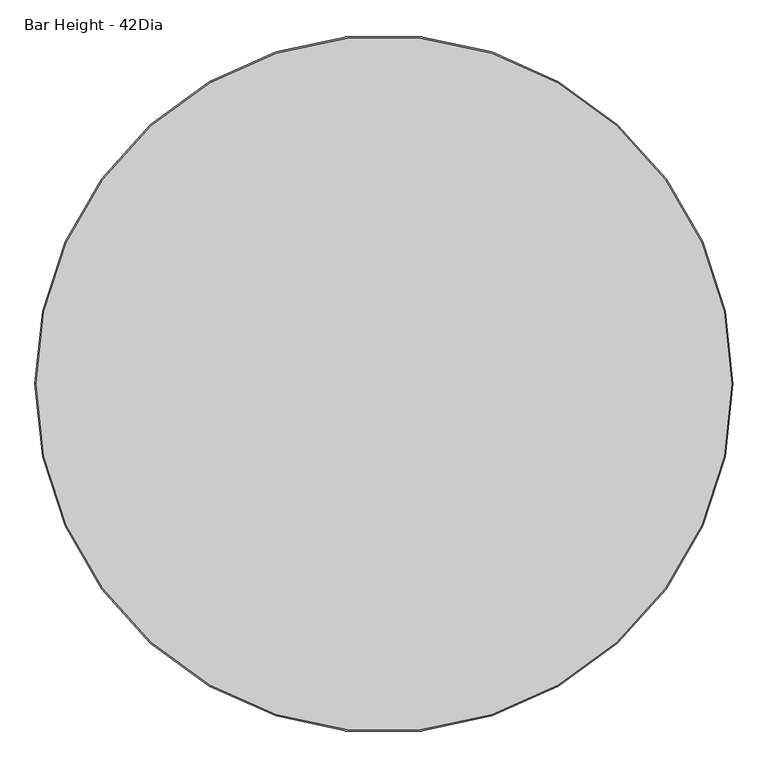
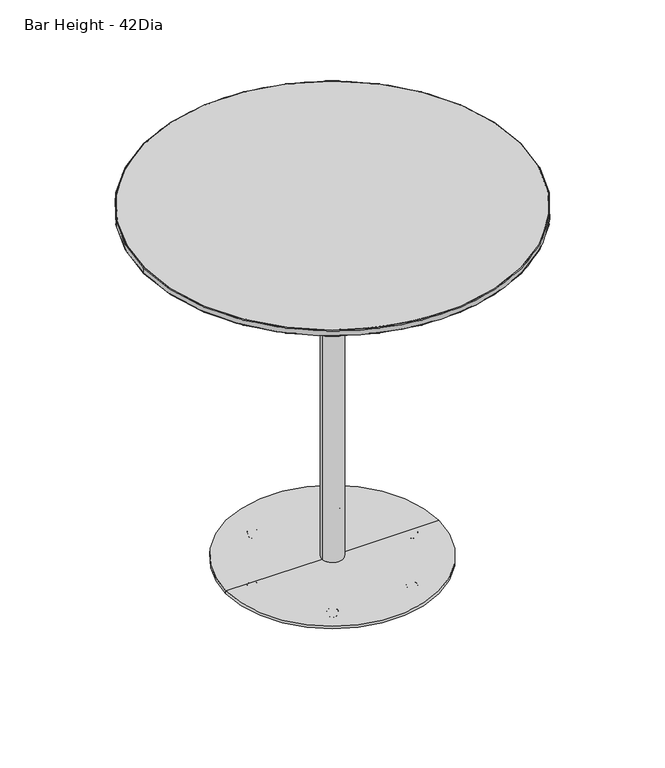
"""IFC4 building model written with IfcOpenShell, lengths in millimetres: furniture geometry, Coalesse_AM_Table_Occasional_Montara650Table_CafeHeight_Round : Bar Height - 42Dia."""

from ifc_helpers import new_model, si_unit, point, frame, origin, origin_with_axes, origin_2d, place, context, project, spatial, polyline, circle_curve, ellipse_curve, trimmed, segment, composite_curve, outline, extrude, source, transform, mapped, element, save
from ifc_brep_helpers import plane_surface, cylinder_surface, revolved_surface, advanced_brep


def bar_height_42dia_b9ada302(model_context):
    return source(origin(), model_context, "Body", "SolidModel", [
        advanced_brep(
        [(112.3723043, -195.0325848, 0.0), (119.7149467, -202.3752273, 0.0), (105.0296619, -187.6899424, 0.0), (120.2614489, -202.9217294, 0.5718943), (104.4831597, -187.1434403, 0.5718943), (122.560548, -205.2208285, 11.2068005), (102.1840606, -184.8443412, 11.2068005), (122.1455272, -204.8058077, 11.9999882), (102.5990814, -185.259362, 11.9999882), (112.3723043, -195.0325848, 11.9999882)],
        [
            (0, 1),
            (1, 2, circle_curve(frame((112.3723043, -195.0325848, 0.0), z_axis=(0.0, 0.0, -1.0), x_axis=(0.7071067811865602, -0.7071067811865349, 0.0)), 10.3840645)),
            (2, 0),
            (2, 1, circle_curve(frame((112.3723043, -195.0325848, 0.0), z_axis=(0.0, 0.0, -1.0), x_axis=(0.7071067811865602, -0.7071067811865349, 0.0)), 10.3840645)),
            (1, 3, circle_curve(frame((119.7149467, -202.3752273, 0.8081846), z_axis=(-0.7071067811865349, -0.7071067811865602, 0.0), x_axis=(0.7071067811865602, -0.7071067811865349, 0.0)), 0.8081846)),
            (3, 4, circle_curve(frame((112.3723043, -195.0325848, 0.5718943), z_axis=(0.0, 0.0, -1.0), x_axis=(0.7071067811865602, -0.7071067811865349, 0.0)), 11.1569353)),
            (4, 2, circle_curve(frame((105.0296619, -187.6899424, 0.8081846), z_axis=(-0.7071067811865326, -0.7071067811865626, 0.0), x_axis=(-0.7071067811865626, 0.7071067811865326, 0.0)), 0.8081846)),
            (4, 3, circle_curve(frame((112.3723043, -195.0325848, 0.5718943), z_axis=(0.0, 0.0, -1.0), x_axis=(0.7071067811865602, -0.7071067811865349, 0.0)), 11.1569353)),
            (3, 5),
            (5, 6, circle_curve(frame((112.3723043, -195.0325848, 11.2068005), z_axis=(0.0, 0.0, -1.0), x_axis=(0.7071067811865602, -0.7071067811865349, 0.0)), 14.4083524)),
            (6, 4),
            (6, 5, circle_curve(frame((112.3723043, -195.0325848, 11.2068005), z_axis=(0.0, 0.0, -1.0), x_axis=(0.7071067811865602, -0.7071067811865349, 0.0)), 14.4083524)),
            (5, 7, circle_curve(frame((122.1455272, -204.8058077, 11.3862424), z_axis=(-0.7071067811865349, -0.7071067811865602, 0.0), x_axis=(0.7071067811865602, -0.7071067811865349, 0.0)), 0.6137458)),
            (7, 8, circle_curve(frame((112.3723043, -195.0325848, 11.9999882), z_axis=(0.0, 0.0, -1.0), x_axis=(0.7071067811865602, -0.7071067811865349, 0.0)), 13.8214243)),
            (8, 6, circle_curve(frame((102.5990814, -185.259362, 11.3862424), z_axis=(-0.7071067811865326, -0.7071067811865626, 0.0), x_axis=(-0.7071067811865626, 0.7071067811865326, 0.0)), 0.6137458)),
            (8, 7, circle_curve(frame((112.3723043, -195.0325848, 11.9999882), z_axis=(0.0, 0.0, -1.0), x_axis=(0.7071067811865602, -0.7071067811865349, 0.0)), 13.8214243)),
            (7, 9),
            (9, 8),
        ],
        [
            plane_surface(frame((112.3723043, -195.0325848, 0.0), z_axis=(0.0, 0.0, -1.0000000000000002), x_axis=(0.7071067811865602, -0.7071067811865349, 0.0))),
            revolved_surface(trimmed(ellipse_curve(frame((119.7149467, -202.3752273, 0.8081846), z_axis=(0.7071067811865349, 0.7071067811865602, 0.0), x_axis=(0.7071067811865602, -0.7071067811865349, 0.0)), 0.8081846, 0.8081846), [point((120.2614489, -202.9217294, 0.5718943))], [point((119.7149467, -202.3752273, 0.0))], True, "CARTESIAN"), (112.3723043, -195.0325848, 12.2086845), (0.0, 0.0, -1.0)),
            revolved_surface(polyline([(122.560548, -205.2208285, 11.2068005), (120.2614489, -202.9217294, 0.5718943)]), (112.3723043, -195.0325848, 12.2086845), (0.0, 0.0, -1.0)),
            revolved_surface(trimmed(ellipse_curve(frame((122.1455272, -204.8058077, 11.3862424), z_axis=(0.7071067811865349, 0.7071067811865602, 0.0), x_axis=(0.7071067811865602, -0.7071067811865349, 0.0)), 0.6137458, 0.6137458), [point((122.1455272, -204.8058077, 11.9999882))], [point((122.560548, -205.2208285, 11.2068005))], True, "CARTESIAN"), (112.3723043, -195.0325848, 12.2086845), (0.0, 0.0, -1.0)),
            plane_surface(frame((112.3723043, -195.0325848, 11.9999882), z_axis=(0.0, 0.0, 1.0000000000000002), x_axis=(0.7071067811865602, -0.7071067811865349, 0.0))),
        ],
        [
            (0, [[1, 2, 3]]),
            (0, [[-3, 4, -1]]),
            (1, [[-2, 5, 6, 7]]),
            (1, [[-4, -7, 8, -5]]),
            (2, [[-6, 9, 10, 11]]),
            (2, [[-8, -11, 12, -9]]),
            (3, [[-10, 13, 14, 15]]),
            (3, [[-12, -15, 16, -13]]),
            (4, [[-14, 17, 18]]),
            (4, [[-16, -18, -17]]),
        ],
    ),
        advanced_brep(
        [(-104.9597041, -187.5851027, 0.0), (-119.6449889, -202.2703876, 0.0), (-112.3023465, -194.9277451, 0.0), (-104.4132019, -187.0386006, 0.5718943), (-120.1914911, -202.8168897, 0.5718943), (-102.1141028, -184.7395015, 11.2068005), (-122.4905902, -205.1159888, 11.2068005), (-102.5291236, -185.1545223, 11.9999882), (-122.0755694, -204.700968, 11.9999882), (-112.3023465, -194.9277451, 11.9999882)],
        [
            (0, 1, circle_curve(frame((-112.3023465, -194.9277451, 0.0), z_axis=(0.0, 0.0, -1.0), x_axis=(-0.7071067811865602, -0.7071067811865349, 0.0)), 10.3840645)),
            (1, 2),
            (2, 0),
            (1, 0, circle_curve(frame((-112.3023465, -194.9277451, 0.0), z_axis=(0.0, 0.0, -1.0), x_axis=(-0.7071067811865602, -0.7071067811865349, 0.0)), 10.3840645)),
            (3, 4, circle_curve(frame((-112.3023465, -194.9277451, 0.5718943), z_axis=(0.0, 0.0, -1.0), x_axis=(-0.7071067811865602, -0.7071067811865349, 0.0)), 11.1569353)),
            (4, 1, circle_curve(frame((-119.6449889, -202.2703876, 0.8081846), z_axis=(0.7071067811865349, -0.7071067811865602, 0.0), x_axis=(-0.7071067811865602, -0.7071067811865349, 0.0)), 0.8081846)),
            (0, 3, circle_curve(frame((-104.9597041, -187.5851027, 0.8081846), z_axis=(0.7071067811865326, -0.7071067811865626, 0.0), x_axis=(0.7071067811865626, 0.7071067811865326, 0.0)), 0.8081846)),
            (4, 3, circle_curve(frame((-112.3023465, -194.9277451, 0.5718943), z_axis=(0.0, 0.0, -1.0), x_axis=(-0.7071067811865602, -0.7071067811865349, 0.0)), 11.1569353)),
            (5, 6, circle_curve(frame((-112.3023465, -194.9277451, 11.2068005), z_axis=(0.0, 0.0, -1.0), x_axis=(-0.7071067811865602, -0.7071067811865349, 0.0)), 14.4083524)),
            (6, 4),
            (3, 5),
            (6, 5, circle_curve(frame((-112.3023465, -194.9277451, 11.2068005), z_axis=(0.0, 0.0, -1.0), x_axis=(-0.7071067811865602, -0.7071067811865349, 0.0)), 14.4083524)),
            (7, 8, circle_curve(frame((-112.3023465, -194.9277451, 11.9999882), z_axis=(0.0, 0.0, -1.0), x_axis=(-0.7071067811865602, -0.7071067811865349, 0.0)), 13.8214243)),
            (8, 6, circle_curve(frame((-122.0755694, -204.700968, 11.3862424), z_axis=(0.7071067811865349, -0.7071067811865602, 0.0), x_axis=(-0.7071067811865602, -0.7071067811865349, 0.0)), 0.6137458)),
            (5, 7, circle_curve(frame((-102.5291236, -185.1545223, 11.3862424), z_axis=(0.7071067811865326, -0.7071067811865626, 0.0), x_axis=(0.7071067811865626, 0.7071067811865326, 0.0)), 0.6137458)),
            (8, 7, circle_curve(frame((-112.3023465, -194.9277451, 11.9999882), z_axis=(0.0, 0.0, -1.0), x_axis=(-0.7071067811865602, -0.7071067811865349, 0.0)), 13.8214243)),
            (9, 8),
            (7, 9),
        ],
        [
            plane_surface(frame((-112.3023465, -194.9277451, 0.0), z_axis=(0.0, 0.0, -1.0000000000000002), x_axis=(-0.7071067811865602, -0.7071067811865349, 0.0))),
            revolved_surface(trimmed(ellipse_curve(frame((-119.6449889, -202.2703876, 0.8081846), z_axis=(-0.7071067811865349, 0.7071067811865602, 0.0), x_axis=(-0.7071067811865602, -0.7071067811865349, 0.0)), 0.8081846, 0.8081846), [point((-119.6449889, -202.2703876, 0.0))], [point((-120.1914911, -202.8168897, 0.5718943))], True, "CARTESIAN"), (-112.3023465, -194.9277451, 12.2086845), (0.0, 0.0, 1.0)),
            revolved_surface(polyline([(-120.1914911, -202.8168897, 0.5718943), (-122.4905902, -205.1159888, 11.2068005)]), (-112.3023465, -194.9277451, 12.2086845), (0.0, 0.0, 1.0)),
            revolved_surface(trimmed(ellipse_curve(frame((-122.0755694, -204.700968, 11.3862424), z_axis=(-0.7071067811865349, 0.7071067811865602, 0.0), x_axis=(-0.7071067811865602, -0.7071067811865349, 0.0)), 0.6137458, 0.6137458), [point((-122.4905902, -205.1159888, 11.2068005))], [point((-122.0755694, -204.700968, 11.9999882))], True, "CARTESIAN"), (-112.3023465, -194.9277451, 12.2086845), (0.0, 0.0, 1.0)),
            plane_surface(frame((-112.3023465, -194.9277451, 11.9999882), z_axis=(0.0, 0.0, 1.0000000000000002), x_axis=(-0.7071067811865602, -0.7071067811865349, 0.0))),
        ],
        [
            (0, [[1, 2, 3]]),
            (0, [[4, -3, -2]]),
            (1, [[5, 6, -1, 7]]),
            (1, [[8, -7, -4, -6]]),
            (2, [[9, 10, -5, 11]]),
            (2, [[12, -11, -8, -10]]),
            (3, [[13, 14, -9, 15]]),
            (3, [[16, -15, -12, -14]]),
            (4, [[17, -13, 18]]),
            (4, [[-18, -16, -17]]),
        ],
    ),
        advanced_brep(
        [(-112.055175, -184.4898776, 0.0), (-112.055175, -205.2580066, 0.0), (-112.055175, -194.8739421, 0.0), (-112.055175, -183.7170068, 0.5718943), (-112.055175, -206.0308773, 0.5718943), (-112.055175, -180.4655897, 11.2068005), (-112.055175, -209.2822944, 11.2068005), (-112.055175, -181.0525177, 11.9999882), (-112.055175, -208.6953664, 11.9999882), (-112.055175, -194.8739421, 11.9999882)],
        [
            (0, 1, circle_curve(frame((-112.055175, -194.8739421, 0.0), z_axis=(0.0, 0.0, -1.0), x_axis=(0.0, -1.0, 0.0)), 10.3840645)),
            (1, 2),
            (2, 0),
            (1, 0, circle_curve(frame((-112.055175, -194.8739421, 0.0), z_axis=(0.0, 0.0, -1.0), x_axis=(0.0, -1.0, 0.0)), 10.3840645)),
            (3, 4, circle_curve(frame((-112.055175, -194.8739421, 0.5718943), z_axis=(0.0, 0.0, -1.0), x_axis=(0.0, -1.0, 0.0)), 11.1569353)),
            (4, 1, circle_curve(frame((-112.055175, -205.2580066, 0.8081846), z_axis=(1.0, 0.0, 0.0), x_axis=(0.0, -1.0, 0.0)), 0.8081846)),
            (0, 3, circle_curve(frame((-112.055175, -184.4898776, 0.8081846), z_axis=(1.0, 0.0, 0.0), x_axis=(0.0, 1.0, 0.0)), 0.8081846)),
            (4, 3, circle_curve(frame((-112.055175, -194.8739421, 0.5718943), z_axis=(0.0, 0.0, -1.0), x_axis=(0.0, -1.0, 0.0)), 11.1569353)),
            (5, 6, circle_curve(frame((-112.055175, -194.8739421, 11.2068005), z_axis=(0.0, 0.0, -1.0), x_axis=(0.0, -1.0, 0.0)), 14.4083524)),
            (6, 4),
            (3, 5),
            (6, 5, circle_curve(frame((-112.055175, -194.8739421, 11.2068005), z_axis=(0.0, 0.0, -1.0), x_axis=(0.0, -1.0, 0.0)), 14.4083524)),
            (7, 8, circle_curve(frame((-112.055175, -194.8739421, 11.9999882), z_axis=(0.0, 0.0, -1.0), x_axis=(0.0, -1.0, 0.0)), 13.8214243)),
            (8, 6, circle_curve(frame((-112.055175, -208.6953664, 11.3862424), z_axis=(1.0, 0.0, 0.0), x_axis=(0.0, -1.0, 0.0)), 0.6137458)),
            (5, 7, circle_curve(frame((-112.055175, -181.0525177, 11.3862424), z_axis=(1.0, 0.0, 0.0), x_axis=(0.0, 1.0, 0.0)), 0.6137458)),
            (8, 7, circle_curve(frame((-112.055175, -194.8739421, 11.9999882), z_axis=(0.0, 0.0, -1.0), x_axis=(0.0, -1.0, 0.0)), 13.8214243)),
            (9, 8),
            (7, 9),
        ],
        [
            plane_surface(frame((-112.055175, -194.8739421, 0.0), z_axis=(0.0, 0.0, -1.0), x_axis=(0.0, -1.0, 0.0))),
            revolved_surface(trimmed(ellipse_curve(frame((-112.055175, -205.2580066, 0.8081846), z_axis=(-1.0, 0.0, 0.0), x_axis=(0.0, -1.0, 0.0)), 0.8081846, 0.8081846), [point((-112.055175, -205.2580066, 0.0))], [point((-112.055175, -206.0308773, 0.5718943))], True, "CARTESIAN"), (-112.055175, -194.8739421, 12.2086845), (0.0, 0.0, 1.0)),
            revolved_surface(polyline([(-112.055175, -206.0308773, 0.5718943), (-112.055175, -209.2822944, 11.2068005)]), (-112.055175, -194.8739421, 12.2086845), (0.0, 0.0, 1.0)),
            revolved_surface(trimmed(ellipse_curve(frame((-112.055175, -208.6953664, 11.3862424), z_axis=(-1.0, 0.0, 0.0), x_axis=(0.0, -1.0, 0.0)), 0.6137458, 0.6137458), [point((-112.055175, -209.2822944, 11.2068005))], [point((-112.055175, -208.6953664, 11.9999882))], True, "CARTESIAN"), (-112.055175, -194.8739421, 12.2086845), (0.0, 0.0, 1.0)),
            plane_surface(frame((-112.055175, -194.8739421, 11.9999882), z_axis=(0.0, 0.0, 1.0), x_axis=(0.0, -1.0, 0.0))),
        ],
        [
            (0, [[1, 2, 3]]),
            (0, [[4, -3, -2]]),
            (1, [[5, 6, -1, 7]]),
            (1, [[8, -7, -4, -6]]),
            (2, [[9, 10, -5, 11]]),
            (2, [[12, -11, -8, -10]]),
            (3, [[13, 14, -9, 15]]),
            (3, [[16, -15, -12, -14]]),
            (4, [[17, -13, 18]]),
            (4, [[-18, -16, -17]]),
        ],
    ),
        advanced_brep(
        [(214.9060746, 0.0, 0.0), (235.6742036, 0.0, 0.0), (225.2901391, 0.0, 0.0), (214.1332039, 0.0, 0.5718943), (236.4470744, 0.0, 0.5718943), (210.8817867, 0.0, 11.2068005), (239.6984915, 0.0, 11.2068005), (211.4687148, 0.0, 11.9999882), (239.1115635, 0.0, 11.9999882), (225.2901391, 0.0, 11.9999882)],
        [
            (0, 1, circle_curve(frame((225.2901391, 0.0, 0.0), z_axis=(0.0, 0.0, -1.0), x_axis=(1.0, 0.0, 0.0)), 10.3840645)),
            (1, 2),
            (2, 0),
            (1, 0, circle_curve(frame((225.2901391, 0.0, 0.0), z_axis=(0.0, 0.0, -1.0), x_axis=(1.0, 0.0, 0.0)), 10.3840645)),
            (3, 4, circle_curve(frame((225.2901391, 0.0, 0.5718943), z_axis=(0.0, 0.0, -1.0), x_axis=(1.0, 0.0, 0.0)), 11.1569353)),
            (4, 1, circle_curve(frame((235.6742036, 0.0, 0.8081846), z_axis=(0.0, 1.0, 0.0), x_axis=(1.0, 0.0, 0.0)), 0.8081846)),
            (0, 3, circle_curve(frame((214.9060746, 0.0, 0.8081846), z_axis=(0.0, 1.0, 0.0), x_axis=(-1.0, 0.0, 0.0)), 0.8081846)),
            (4, 3, circle_curve(frame((225.2901391, 0.0, 0.5718943), z_axis=(0.0, 0.0, -1.0), x_axis=(1.0, 0.0, 0.0)), 11.1569353)),
            (5, 6, circle_curve(frame((225.2901391, 0.0, 11.2068005), z_axis=(0.0, 0.0, -1.0), x_axis=(1.0, 0.0, 0.0)), 14.4083524)),
            (6, 4),
            (3, 5),
            (6, 5, circle_curve(frame((225.2901391, 0.0, 11.2068005), z_axis=(0.0, 0.0, -1.0), x_axis=(1.0, 0.0, 0.0)), 14.4083524)),
            (7, 8, circle_curve(frame((225.2901391, 0.0, 11.9999882), z_axis=(0.0, 0.0, -1.0), x_axis=(1.0, 0.0, 0.0)), 13.8214243)),
            (8, 6, circle_curve(frame((239.1115635, 0.0, 11.3862424), z_axis=(0.0, 1.0, 0.0), x_axis=(1.0, 0.0, 0.0)), 0.6137458)),
            (5, 7, circle_curve(frame((211.4687148, 0.0, 11.3862424), z_axis=(0.0, 1.0, 0.0), x_axis=(-1.0, 0.0, 0.0)), 0.6137458)),
            (8, 7, circle_curve(frame((225.2901391, 0.0, 11.9999882), z_axis=(0.0, 0.0, -1.0), x_axis=(1.0, 0.0, 0.0)), 13.8214243)),
            (9, 8),
            (7, 9),
        ],
        [
            plane_surface(frame((225.2901391, 0.0, 0.0), z_axis=(0.0, 0.0, -1.0), x_axis=(1.0, 0.0, 0.0))),
            revolved_surface(trimmed(ellipse_curve(frame((235.6742036, 0.0, 0.8081846), z_axis=(0.0, -1.0, 0.0), x_axis=(1.0, 0.0, 0.0)), 0.8081846, 0.8081846), [point((235.6742036, 0.0, 0.0))], [point((236.4470744, 0.0, 0.5718943))], True, "CARTESIAN"), (225.2901391, 0.0, 12.2086845), (0.0, 0.0, 1.0)),
            revolved_surface(polyline([(236.4470744, 0.0, 0.5718943), (239.6984915, 0.0, 11.2068005)]), (225.2901391, 0.0, 12.2086845), (0.0, 0.0, 1.0)),
            revolved_surface(trimmed(ellipse_curve(frame((239.1115635, 0.0, 11.3862424), z_axis=(0.0, -1.0, 0.0), x_axis=(1.0, 0.0, 0.0)), 0.6137458, 0.6137458), [point((239.6984915, 0.0, 11.2068005))], [point((239.1115635, 0.0, 11.9999882))], True, "CARTESIAN"), (225.2901391, 0.0, 12.2086845), (0.0, 0.0, 1.0)),
            plane_surface(frame((225.2901391, 0.0, 11.9999882), z_axis=(0.0, 0.0, 1.0), x_axis=(1.0, 0.0, 0.0))),
        ],
        [
            (0, [[1, 2, 3]]),
            (0, [[4, -3, -2]]),
            (1, [[5, 6, -1, 7]]),
            (1, [[8, -7, -4, -6]]),
            (2, [[9, 10, -5, 11]]),
            (2, [[12, -11, -8, -10]]),
            (3, [[13, 14, -9, 15]]),
            (3, [[16, -15, -12, -14]]),
            (4, [[17, -13, 18]]),
            (4, [[-18, -16, -17]]),
        ],
    ),
        advanced_brep(
        [(102.9986415, 175.7657839, 0.0), (117.6839264, 190.4510688, 0.0), (110.341284, 183.1084263, 0.0), (102.4521394, 175.2192818, 0.5718943), (118.2304285, 190.9975709, 0.5718943), (100.1530403, 172.9201827, 11.2068005), (120.5295276, 193.29667, 11.2068005), (100.5680611, 173.3352035, 11.9999882), (120.1145068, 192.8816492, 11.9999882), (110.341284, 183.1084263, 11.9999882)],
        [
            (0, 1, circle_curve(frame((110.341284, 183.1084263, 0.0), z_axis=(0.0, 0.0, -1.0), x_axis=(0.7071067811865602, 0.7071067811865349, 0.0)), 10.3840645)),
            (1, 2),
            (2, 0),
            (1, 0, circle_curve(frame((110.341284, 183.1084263, 0.0), z_axis=(0.0, 0.0, -1.0), x_axis=(0.7071067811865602, 0.7071067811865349, 0.0)), 10.3840645)),
            (3, 4, circle_curve(frame((110.341284, 183.1084263, 0.5718943), z_axis=(0.0, 0.0, -1.0), x_axis=(0.7071067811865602, 0.7071067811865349, 0.0)), 11.1569353)),
            (4, 1, circle_curve(frame((117.6839264, 190.4510688, 0.8081846), z_axis=(-0.7071067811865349, 0.7071067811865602, 0.0), x_axis=(0.7071067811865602, 0.7071067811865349, 0.0)), 0.8081846)),
            (0, 3, circle_curve(frame((102.9986415, 175.7657839, 0.8081846), z_axis=(-0.7071067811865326, 0.7071067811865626, 0.0), x_axis=(-0.7071067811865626, -0.7071067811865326, 0.0)), 0.8081846)),
            (4, 3, circle_curve(frame((110.341284, 183.1084263, 0.5718943), z_axis=(0.0, 0.0, -1.0), x_axis=(0.7071067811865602, 0.7071067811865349, 0.0)), 11.1569353)),
            (5, 6, circle_curve(frame((110.341284, 183.1084263, 11.2068005), z_axis=(0.0, 0.0, -1.0), x_axis=(0.7071067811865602, 0.7071067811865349, 0.0)), 14.4083524)),
            (6, 4),
            (3, 5),
            (6, 5, circle_curve(frame((110.341284, 183.1084263, 11.2068005), z_axis=(0.0, 0.0, -1.0), x_axis=(0.7071067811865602, 0.7071067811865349, 0.0)), 14.4083524)),
            (7, 8, circle_curve(frame((110.341284, 183.1084263, 11.9999882), z_axis=(0.0, 0.0, -1.0), x_axis=(0.7071067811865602, 0.7071067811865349, 0.0)), 13.8214243)),
            (8, 6, circle_curve(frame((120.1145068, 192.8816492, 11.3862424), z_axis=(-0.7071067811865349, 0.7071067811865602, 0.0), x_axis=(0.7071067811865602, 0.7071067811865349, 0.0)), 0.6137458)),
            (5, 7, circle_curve(frame((100.5680611, 173.3352035, 11.3862424), z_axis=(-0.7071067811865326, 0.7071067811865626, 0.0), x_axis=(-0.7071067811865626, -0.7071067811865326, 0.0)), 0.6137458)),
            (8, 7, circle_curve(frame((110.341284, 183.1084263, 11.9999882), z_axis=(0.0, 0.0, -1.0), x_axis=(0.7071067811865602, 0.7071067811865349, 0.0)), 13.8214243)),
            (9, 8),
            (7, 9),
        ],
        [
            plane_surface(frame((110.341284, 183.1084263, 0.0), z_axis=(0.0, 0.0, -1.0000000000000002), x_axis=(0.7071067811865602, 0.7071067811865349, 0.0))),
            revolved_surface(trimmed(ellipse_curve(frame((117.6839264, 190.4510688, 0.8081846), z_axis=(0.7071067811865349, -0.7071067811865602, 0.0), x_axis=(0.7071067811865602, 0.7071067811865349, 0.0)), 0.8081846, 0.8081846), [point((117.6839264, 190.4510688, 0.0))], [point((118.2304285, 190.9975709, 0.5718943))], True, "CARTESIAN"), (110.341284, 183.1084263, 12.2086845), (0.0, 0.0, 1.0)),
            revolved_surface(polyline([(118.2304285, 190.9975709, 0.5718943), (120.5295276, 193.29667, 11.2068005)]), (110.341284, 183.1084263, 12.2086845), (0.0, 0.0, 1.0)),
            revolved_surface(trimmed(ellipse_curve(frame((120.1145068, 192.8816492, 11.3862424), z_axis=(0.7071067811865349, -0.7071067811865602, 0.0), x_axis=(0.7071067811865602, 0.7071067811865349, 0.0)), 0.6137458, 0.6137458), [point((120.5295276, 193.29667, 11.2068005))], [point((120.1145068, 192.8816492, 11.9999882))], True, "CARTESIAN"), (110.341284, 183.1084263, 12.2086845), (0.0, 0.0, 1.0)),
            plane_surface(frame((110.341284, 183.1084263, 11.9999882), z_axis=(0.0, 0.0, 1.0000000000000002), x_axis=(0.7071067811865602, 0.7071067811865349, 0.0))),
        ],
        [
            (0, [[1, 2, 3]]),
            (0, [[4, -3, -2]]),
            (1, [[5, 6, -1, 7]]),
            (1, [[8, -7, -4, -6]]),
            (2, [[9, 10, -5, 11]]),
            (2, [[12, -11, -8, -10]]),
            (3, [[13, 14, -9, 15]]),
            (3, [[16, -15, -12, -14]]),
            (4, [[17, -13, 18]]),
            (4, [[-18, -16, -17]]),
        ],
    ),
        advanced_brep(
        [(-112.5027991, 194.9473484, 0.0), (-119.8454415, 202.2899909, 0.0), (-105.1601566, 187.604706, 0.0), (-120.3919436, 202.836493, 0.5718943), (-104.6136545, 187.0582039, 0.5718943), (-122.6910427, 205.1355921, 11.2068005), (-102.3145554, 184.7591048, 11.2068005), (-122.2760219, 204.7205713, 11.9999882), (-102.7295762, 185.1741256, 11.9999882), (-112.5027991, 194.9473484, 11.9999882)],
        [
            (0, 1),
            (1, 2, circle_curve(frame((-112.5027991, 194.9473484, 0.0), z_axis=(0.0, 0.0, -1.0), x_axis=(-0.7071067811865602, 0.7071067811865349, 0.0)), 10.3840645)),
            (2, 0),
            (2, 1, circle_curve(frame((-112.5027991, 194.9473484, 0.0), z_axis=(0.0, 0.0, -1.0), x_axis=(-0.7071067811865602, 0.7071067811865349, 0.0)), 10.3840645)),
            (1, 3, circle_curve(frame((-119.8454415, 202.2899909, 0.8081846), z_axis=(0.7071067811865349, 0.7071067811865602, 0.0), x_axis=(-0.7071067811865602, 0.7071067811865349, 0.0)), 0.8081846)),
            (3, 4, circle_curve(frame((-112.5027991, 194.9473484, 0.5718943), z_axis=(0.0, 0.0, -1.0), x_axis=(-0.7071067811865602, 0.7071067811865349, 0.0)), 11.1569353)),
            (4, 2, circle_curve(frame((-105.1601566, 187.604706, 0.8081846), z_axis=(0.7071067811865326, 0.7071067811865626, 0.0), x_axis=(0.7071067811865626, -0.7071067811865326, 0.0)), 0.8081846)),
            (4, 3, circle_curve(frame((-112.5027991, 194.9473484, 0.5718943), z_axis=(0.0, 0.0, -1.0), x_axis=(-0.7071067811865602, 0.7071067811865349, 0.0)), 11.1569353)),
            (3, 5),
            (5, 6, circle_curve(frame((-112.5027991, 194.9473484, 11.2068005), z_axis=(0.0, 0.0, -1.0), x_axis=(-0.7071067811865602, 0.7071067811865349, 0.0)), 14.4083524)),
            (6, 4),
            (6, 5, circle_curve(frame((-112.5027991, 194.9473484, 11.2068005), z_axis=(0.0, 0.0, -1.0), x_axis=(-0.7071067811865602, 0.7071067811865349, 0.0)), 14.4083524)),
            (5, 7, circle_curve(frame((-122.2760219, 204.7205713, 11.3862424), z_axis=(0.7071067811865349, 0.7071067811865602, 0.0), x_axis=(-0.7071067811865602, 0.7071067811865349, 0.0)), 0.6137458)),
            (7, 8, circle_curve(frame((-112.5027991, 194.9473484, 11.9999882), z_axis=(0.0, 0.0, -1.0), x_axis=(-0.7071067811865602, 0.7071067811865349, 0.0)), 13.8214243)),
            (8, 6, circle_curve(frame((-102.7295762, 185.1741256, 11.3862424), z_axis=(0.7071067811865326, 0.7071067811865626, 0.0), x_axis=(0.7071067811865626, -0.7071067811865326, 0.0)), 0.6137458)),
            (8, 7, circle_curve(frame((-112.5027991, 194.9473484, 11.9999882), z_axis=(0.0, 0.0, -1.0), x_axis=(-0.7071067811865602, 0.7071067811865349, 0.0)), 13.8214243)),
            (7, 9),
            (9, 8),
        ],
        [
            plane_surface(frame((-112.5027991, 194.9473484, 0.0), z_axis=(0.0, 0.0, -1.0000000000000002), x_axis=(-0.7071067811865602, 0.7071067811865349, 0.0))),
            revolved_surface(trimmed(ellipse_curve(frame((-119.8454415, 202.2899909, 0.8081846), z_axis=(-0.7071067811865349, -0.7071067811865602, 0.0), x_axis=(-0.7071067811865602, 0.7071067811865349, 0.0)), 0.8081846, 0.8081846), [point((-120.3919436, 202.836493, 0.5718943))], [point((-119.8454415, 202.2899909, 0.0))], True, "CARTESIAN"), (-112.5027991, 194.9473484, 12.2086845), (0.0, 0.0, -1.0)),
            revolved_surface(polyline([(-122.6910427, 205.1355921, 11.2068005), (-120.3919436, 202.836493, 0.5718943)]), (-112.5027991, 194.9473484, 12.2086845), (0.0, 0.0, -1.0)),
            revolved_surface(trimmed(ellipse_curve(frame((-122.2760219, 204.7205713, 11.3862424), z_axis=(-0.7071067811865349, -0.7071067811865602, 0.0), x_axis=(-0.7071067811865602, 0.7071067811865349, 0.0)), 0.6137458, 0.6137458), [point((-122.2760219, 204.7205713, 11.9999882))], [point((-122.6910427, 205.1355921, 11.2068005))], True, "CARTESIAN"), (-112.5027991, 194.9473484, 12.2086845), (0.0, 0.0, -1.0)),
            plane_surface(frame((-112.5027991, 194.9473484, 11.9999882), z_axis=(0.0, 0.0, 1.0000000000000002), x_axis=(-0.7071067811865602, 0.7071067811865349, 0.0))),
        ],
        [
            (0, [[1, 2, 3]]),
            (0, [[-3, 4, -1]]),
            (1, [[-2, 5, 6, 7]]),
            (1, [[-4, -7, 8, -5]]),
            (2, [[-6, 9, 10, 11]]),
            (2, [[-8, -11, 12, -9]]),
            (3, [[-10, 13, 14, 15]]),
            (3, [[-12, -15, 16, -13]]),
            (4, [[-14, 17, 18]]),
            (4, [[-16, -18, -17]]),
        ],
    ),
        advanced_brep(
        [(-225.0355893, 0.0, 0.0), (-235.4196538, 0.0, 0.0), (-214.6515248, 0.0, 0.0), (-236.1925246, 0.0, 0.5718943), (-213.8786541, 0.0, 0.5718943), (-239.4439417, 0.0, 11.2068005), (-210.6272369, 0.0, 11.2068005), (-238.8570136, 0.0, 11.9999882), (-211.214165, 0.0, 11.9999882), (-225.0355893, 0.0, 11.9999882)],
        [
            (0, 1),
            (1, 2, circle_curve(frame((-225.0355893, 0.0, 0.0), z_axis=(0.0, 0.0, -1.0), x_axis=(-1.0, 0.0, 0.0)), 10.3840645)),
            (2, 0),
            (2, 1, circle_curve(frame((-225.0355893, 0.0, 0.0), z_axis=(0.0, 0.0, -1.0), x_axis=(-1.0, 0.0, 0.0)), 10.3840645)),
            (1, 3, circle_curve(frame((-235.4196538, 0.0, 0.8081846), z_axis=(0.0, 1.0, 0.0), x_axis=(-1.0, 0.0, 0.0)), 0.8081846)),
            (3, 4, circle_curve(frame((-225.0355893, 0.0, 0.5718943), z_axis=(0.0, 0.0, -1.0), x_axis=(-1.0, 0.0, 0.0)), 11.1569353)),
            (4, 2, circle_curve(frame((-214.6515248, 0.0, 0.8081846), z_axis=(0.0, 1.0, 0.0), x_axis=(1.0, 0.0, 0.0)), 0.8081846)),
            (4, 3, circle_curve(frame((-225.0355893, 0.0, 0.5718943), z_axis=(0.0, 0.0, -1.0), x_axis=(-1.0, 0.0, 0.0)), 11.1569353)),
            (3, 5),
            (5, 6, circle_curve(frame((-225.0355893, 0.0, 11.2068005), z_axis=(0.0, 0.0, -1.0), x_axis=(-1.0, 0.0, 0.0)), 14.4083524)),
            (6, 4),
            (6, 5, circle_curve(frame((-225.0355893, 0.0, 11.2068005), z_axis=(0.0, 0.0, -1.0), x_axis=(-1.0, 0.0, 0.0)), 14.4083524)),
            (5, 7, circle_curve(frame((-238.8570136, 0.0, 11.3862424), z_axis=(0.0, 1.0, 0.0), x_axis=(-1.0, 0.0, 0.0)), 0.6137458)),
            (7, 8, circle_curve(frame((-225.0355893, 0.0, 11.9999882), z_axis=(0.0, 0.0, -1.0), x_axis=(-1.0, 0.0, 0.0)), 13.8214243)),
            (8, 6, circle_curve(frame((-211.214165, 0.0, 11.3862424), z_axis=(0.0, 1.0, 0.0), x_axis=(1.0, 0.0, 0.0)), 0.6137458)),
            (8, 7, circle_curve(frame((-225.0355893, 0.0, 11.9999882), z_axis=(0.0, 0.0, -1.0), x_axis=(-1.0, 0.0, 0.0)), 13.8214243)),
            (7, 9),
            (9, 8),
        ],
        [
            plane_surface(frame((-225.0355893, 0.0, 0.0), z_axis=(0.0, 0.0, -1.0), x_axis=(-1.0, 0.0, 0.0))),
            revolved_surface(trimmed(ellipse_curve(frame((-235.4196538, 0.0, 0.8081846), z_axis=(0.0, -1.0, 0.0), x_axis=(-1.0, 0.0, 0.0)), 0.8081846, 0.8081846), [point((-236.1925246, 0.0, 0.5718943))], [point((-235.4196538, 0.0, 0.0))], True, "CARTESIAN"), (-225.0355893, 0.0, 12.2086845), (0.0, 0.0, -1.0)),
            revolved_surface(polyline([(-239.4439417, 0.0, 11.2068005), (-236.1925246, 0.0, 0.5718943)]), (-225.0355893, 0.0, 12.2086845), (0.0, 0.0, -1.0)),
            revolved_surface(trimmed(ellipse_curve(frame((-238.8570136, 0.0, 11.3862424), z_axis=(0.0, -1.0, 0.0), x_axis=(-1.0, 0.0, 0.0)), 0.6137458, 0.6137458), [point((-238.8570136, 0.0, 11.9999882))], [point((-239.4439417, 0.0, 11.2068005))], True, "CARTESIAN"), (-225.0355893, 0.0, 12.2086845), (0.0, 0.0, -1.0)),
            plane_surface(frame((-225.0355893, 0.0, 11.9999882), z_axis=(0.0, 0.0, 1.0), x_axis=(-1.0, 0.0, 0.0))),
        ],
        [
            (0, [[1, 2, 3]]),
            (0, [[-3, 4, -1]]),
            (1, [[-2, 5, 6, 7]]),
            (1, [[-4, -7, 8, -5]]),
            (2, [[-6, 9, 10, 11]]),
            (2, [[-8, -11, 12, -9]]),
            (3, [[-10, 13, 14, 15]]),
            (3, [[-12, -15, 16, -13]]),
            (4, [[-14, 17, 18]]),
            (4, [[-16, -18, -17]]),
        ],
    ),
        advanced_brep(
        [(131.5995255, 0.0, 1033.655027), (-131.5995255, 0.0, 1033.655027), (-176.076473, 0.0, 1033.655027), (176.076473, 0.0, 1033.655027), (38.8356016, 0.0, 1017.0899529), (-38.8356016, 0.0, 1017.0899529), (-47.6092868, 0.0, 1017.0899529), (47.6092868, 0.0, 1017.0899529), (29.5495828, 0.0, 19.9999965), (-29.5495828, 0.0, 19.9999965), (-29.5495828, 0.0, 1029.6852036), (29.5495828, 0.0, 1029.6852036), (301.0967005, 0.0, 19.9999965), (-301.0967005, 0.0, 19.9999965), (301.0967005, 0.0, 11.9999882), (-301.0967005, 0.0, 11.9999882), (0.0, 0.0, 11.9999882), (176.076473, 0.0, 1036.830027), (-176.076473, 0.0, 1036.830027), (0.0, 0.0, 1036.830027), (32.5573587, 0.0, 1019.3383874), (-32.5573587, 0.0, 1019.3383874), (30.918584, 0.0, 1029.6852036), (-30.918584, 0.0, 1029.6852036)],
        [
            (0, 1, circle_curve(frame((0.0, 0.0, 1033.655027), z_axis=(0.0, 0.0, 1.0), x_axis=(-1.0, 0.0, 0.0)), 131.5995255)),
            (1, 2),
            (2, 3, circle_curve(frame((0.0, 0.0, 1033.655027), z_axis=(0.0, 0.0, -1.0), x_axis=(-1.0, 0.0, 0.0)), 176.076473)),
            (3, 0),
            (1, 0, circle_curve(frame((0.0, 0.0, 1033.655027), z_axis=(0.0, 0.0, 1.0), x_axis=(-1.0, 0.0, 0.0)), 131.5995255)),
            (3, 2, circle_curve(frame((0.0, 0.0, 1033.655027), z_axis=(0.0, 0.0, -1.0), x_axis=(-1.0, 0.0, 0.0)), 176.076473)),
            (4, 5, circle_curve(frame((0.0, 0.0, 1017.0899529), z_axis=(0.0, 0.0, 1.0), x_axis=(-1.0, 0.0, 0.0)), 38.8356016)),
            (5, 6),
            (6, 7, circle_curve(frame((0.0, 0.0, 1017.0899529), z_axis=(0.0, 0.0, -1.0), x_axis=(-1.0, 0.0, 0.0)), 47.6092868)),
            (7, 4),
            (5, 4, circle_curve(frame((0.0, 0.0, 1017.0899529), z_axis=(0.0, 0.0, 1.0), x_axis=(-1.0, 0.0, 0.0)), 38.8356016)),
            (7, 6, circle_curve(frame((0.0, 0.0, 1017.0899529), z_axis=(0.0, 0.0, -1.0), x_axis=(-1.0, 0.0, 0.0)), 47.6092868)),
            (8, 9, circle_curve(frame((0.0, 0.0, 19.9999965), z_axis=(0.0, 0.0, 1.0), x_axis=(-1.0, 0.0, 0.0)), 29.5495828)),
            (9, 10),
            (10, 11, circle_curve(frame((0.0, 0.0, 1029.6852036), z_axis=(0.0, 0.0, -1.0), x_axis=(-1.0, 0.0, 0.0)), 29.5495828)),
            (11, 8),
            (9, 8, circle_curve(frame((0.0, 0.0, 19.9999965), z_axis=(0.0, 0.0, 1.0), x_axis=(-1.0, 0.0, 0.0)), 29.5495828)),
            (11, 10, circle_curve(frame((0.0, 0.0, 1029.6852036), z_axis=(0.0, 0.0, -1.0), x_axis=(-1.0, 0.0, 0.0)), 29.5495828)),
            (12, 13, circle_curve(frame((0.0, 0.0, 19.9999965), z_axis=(0.0, 0.0, 1.0), x_axis=(-1.0, 0.0, 0.0)), 301.0967005)),
            (13, 9),
            (8, 12),
            (13, 12, circle_curve(frame((0.0, 0.0, 19.9999965), z_axis=(0.0, 0.0, 1.0), x_axis=(-1.0, 0.0, 0.0)), 301.0967005)),
            (14, 15, circle_curve(frame((0.0, 0.0, 11.9999882), z_axis=(0.0, 0.0, 1.0), x_axis=(-1.0, 0.0, 0.0)), 301.0967005)),
            (15, 13),
            (12, 14),
            (15, 14, circle_curve(frame((0.0, 0.0, 11.9999882), z_axis=(0.0, 0.0, 1.0), x_axis=(-1.0, 0.0, 0.0)), 301.0967005)),
            (16, 15),
            (14, 16),
            (17, 18, circle_curve(frame((0.0, 0.0, 1036.830027), z_axis=(0.0, 0.0, 1.0), x_axis=(-1.0, 0.0, 0.0)), 176.076473)),
            (18, 19),
            (19, 17),
            (18, 17, circle_curve(frame((0.0, 0.0, 1036.830027), z_axis=(0.0, 0.0, 1.0), x_axis=(-1.0, 0.0, 0.0)), 176.076473)),
            (2, 18),
            (17, 3),
            (20, 21, circle_curve(frame((0.0, 0.0, 1019.3383874), z_axis=(0.0, 0.0, 1.0), x_axis=(-1.0, 0.0, 0.0)), 32.5573587)),
            (21, 5),
            (4, 20),
            (21, 20, circle_curve(frame((0.0, 0.0, 1019.3383874), z_axis=(0.0, 0.0, 1.0), x_axis=(-1.0, 0.0, 0.0)), 32.5573587)),
            (22, 23, circle_curve(frame((0.0, 0.0, 1029.6852036), z_axis=(0.0, 0.0, 1.0), x_axis=(-1.0, 0.0, 0.0)), 30.918584)),
            (23, 21),
            (20, 22),
            (23, 22, circle_curve(frame((0.0, 0.0, 1029.6852036), z_axis=(0.0, 0.0, 1.0), x_axis=(-1.0, 0.0, 0.0)), 30.918584)),
            (10, 23),
            (22, 11),
            (6, 1),
            (0, 7),
        ],
        [
            plane_surface(frame((0.0, 0.0, 1033.655027), z_axis=(0.0, 0.0, -1.0), x_axis=(-1.0, 0.0, 0.0))),
            plane_surface(frame((0.0, 0.0, 1017.0899529), z_axis=(0.0, 0.0, -1.0), x_axis=(-1.0, 0.0, 0.0))),
            cylinder_surface(frame((0.0, 0.0, 781.9999965), z_axis=(0.0, 0.0, -1.0), x_axis=(-1.0, 0.0, 0.0)), 29.5495828),
            plane_surface(frame((0.0, 0.0, 19.9999965), z_axis=(0.0, 0.0, 1.0), x_axis=(-1.0, 0.0, 0.0))),
            cylinder_surface(frame((0.0, 0.0, 781.9999965), z_axis=(0.0, 0.0, -1.0), x_axis=(-1.0, 0.0, 0.0)), 301.0967005),
            plane_surface(frame((0.0, 0.0, 11.9999882), z_axis=(0.0, 0.0, -1.0), x_axis=(-1.0, 0.0, 0.0))),
            plane_surface(frame((0.0, 0.0, 1036.830027), z_axis=(0.0, 0.0, 1.0), x_axis=(-1.0, 0.0, 0.0))),
            cylinder_surface(frame((0.0, 0.0, 781.9999965), z_axis=(0.0, 0.0, -1.0), x_axis=(-1.0, 0.0, 0.0)), 176.076473),
            revolved_surface(polyline([(-38.8356016, 0.0, 1017.0899529), (-32.5573587, 0.0, 1019.3383874)]), (0.0, 0.0, 781.9999965), (0.0, 0.0, -1.0)),
            revolved_surface(polyline([(-32.5573587, 0.0, 1019.3383874), (-30.918584, 0.0, 1029.6852036)]), (0.0, 0.0, 781.9999965), (0.0, 0.0, -1.0)),
            plane_surface(frame((0.0, 0.0, 1029.6852036), z_axis=(0.0, 0.0, -1.0), x_axis=(-1.0, 0.0, 0.0))),
            revolved_surface(polyline([(-131.5995255, 0.0, 1033.655027), (-47.6092868, 0.0, 1017.0899529)]), (0.0, 0.0, 781.9999965), (0.0, 0.0, -1.0)),
        ],
        [
            (0, [[1, 2, 3, 4]]),
            (0, [[5, -4, 6, -2]]),
            (1, [[7, 8, 9, 10]]),
            (1, [[11, -10, 12, -8]]),
            (2, [[13, 14, 15, 16]]),
            (2, [[17, -16, 18, -14]]),
            (3, [[19, 20, -13, 21]]),
            (3, [[22, -21, -17, -20]]),
            (4, [[23, 24, -19, 25]]),
            (4, [[26, -25, -22, -24]]),
            (5, [[27, -23, 28]]),
            (5, [[-28, -26, -27]]),
            (6, [[29, 30, 31]]),
            (6, [[32, -31, -30]]),
            (7, [[-3, 33, -29, 34]]),
            (7, [[-6, -34, -32, -33]]),
            (8, [[35, 36, -7, 37]]),
            (8, [[38, -37, -11, -36]]),
            (9, [[39, 40, -35, 41]]),
            (9, [[42, -41, -38, -40]]),
            (10, [[-15, 43, -39, 44]]),
            (10, [[-18, -44, -42, -43]]),
            (11, [[-9, 45, -1, 46]]),
            (11, [[-12, -46, -5, -45]]),
        ],
    ),
        advanced_brep(
        [(-467.868, 0.0, 1036.830027), (467.868, 0.0, 1036.830027), (-531.368, 0.0, 1049.095891), (531.368, 0.0, 1049.095891)],
        [
            (0, 1, circle_curve(frame((0.0, 0.0, 1036.830027), z_axis=(0.0, 0.0, -1.0), x_axis=(-1.0, 0.0, 0.0)), 467.868)),
            (1, 0, circle_curve(frame((0.0, 0.0, 1036.830027), z_axis=(0.0, 0.0, -1.0), x_axis=(1.0, 0.0, 0.0)), 467.868)),
            (2, 3, circle_curve(frame((0.0, 0.0, 1049.095891), z_axis=(0.0, 0.0, 1.0), x_axis=(1.0, 0.0, 0.0)), 531.368)),
            (3, 2, circle_curve(frame((0.0, 0.0, 1049.095891), z_axis=(0.0, 0.0, 1.0), x_axis=(-1.0, 0.0, 0.0)), 531.368)),
            (2, 0),
            (1, 3),
        ],
        [
            plane_surface(frame((0.0, 0.0, 1036.830027), z_axis=(0.0, 0.0, -1.0), x_axis=(0.0, -1.0, 0.0))),
            plane_surface(frame((0.0, 0.0, 1049.095891), z_axis=(0.0, 0.0, 1.0), x_axis=(0.0, -1.0, 0.0))),
            revolved_surface(polyline([(467.8679998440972, 0.0, 1036.830027), (531.368, 0.0, 1049.095891)]), (0.0, 0.0, 946.4551413), (0.0, 0.0, 1.0)),
            revolved_surface(polyline([(-467.8679998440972, 0.0, 1036.830027), (-531.368, 0.0, 1049.095891)]), (0.0, 0.0, 946.4551413), (0.0, 0.0, 1.0)),
        ],
        [
            (0, [[1, 2]]),
            (1, [[3, 4]]),
            (2, [[-3, 5, -2, 6]]),
            (3, [[-4, -6, -1, -5]]),
        ],
    ),
        extrude(outline(composite_curve([segment(trimmed(circle_curve(origin_2d(), 531.368), [point((-531.368, 0.0))], [point((531.368, 0.0))], False, "CARTESIAN"), True, "CONTINUOUS"), segment(trimmed(circle_curve(origin_2d(), 531.368), [point((531.368, 0.0))], [point((-531.368, 0.0))], False, "CARTESIAN"), True, "CONTINUOUS")], self_intersect=False)), frame((0.0, 0.0, 1049.095891), z_axis=(0.0, 0.0, 1.0), x_axis=(1.0, 0.0, 0.0)), (0.0, 0.0, 1.0), 17.704109),
        advanced_brep(
        [(533.4438665, 0.0, 1051.0278467), (-533.4438665, 0.0, 1051.0278467), (-531.368, 0.0, 1049.095891), (531.368, 0.0, 1049.095891), (533.4438665, 0.0, 1064.7999283), (-533.4438665, 0.0, 1064.7999283), (531.368, 0.0, 1066.8), (-531.368, 0.0, 1066.8)],
        [
            (0, 1, circle_curve(frame((0.0, 0.0, 1051.0278467), z_axis=(0.0, 0.0, -1.0), x_axis=(-1.0, 0.0, 0.0)), 533.4438665)),
            (1, 2, circle_curve(frame((-531.5069224, 0.0, 1051.0278467), z_axis=(0.0, -1.0, 0.0), x_axis=(1.0, 0.0, 0.0)), 1.9369441)),
            (2, 3, circle_curve(frame((0.0, 0.0, 1049.095891), z_axis=(0.0, 0.0, 1.0), x_axis=(-1.0, 0.0, 0.0)), 531.368)),
            (3, 0, circle_curve(frame((531.5069224, 0.0, 1051.0278467), z_axis=(0.0, -1.0, 0.0), x_axis=(-1.0, 0.0, 0.0)), 1.9369441)),
            (4, 5, circle_curve(frame((0.0, 0.0, 1064.7999283), z_axis=(0.0, 0.0, -1.0), x_axis=(-1.0, 0.0, 0.0)), 533.4438665)),
            (5, 1),
            (0, 4),
            (6, 7, circle_curve(frame((0.0, 0.0, 1066.8), z_axis=(0.0, 0.0, -1.0), x_axis=(-1.0, 0.0, 0.0)), 531.368)),
            (7, 5, circle_curve(frame((-531.4424111, 0.0, 1064.7999283), z_axis=(0.0, -1.0, 0.0), x_axis=(1.0, 0.0, 0.0)), 2.0014554)),
            (4, 6, circle_curve(frame((531.4424111, 0.0, 1064.7999283), z_axis=(0.0, -1.0, 0.0), x_axis=(-1.0, 0.0, 0.0)), 2.0014554)),
            (2, 7),
            (6, 3),
            (1, 0, circle_curve(frame((0.0, 0.0, 1051.0278467), z_axis=(0.0, 0.0, -1.0), x_axis=(1.0, 0.0, 0.0)), 533.4438665)),
            (3, 2, circle_curve(frame((0.0, 0.0, 1049.095891), z_axis=(0.0, 0.0, 1.0), x_axis=(1.0, 0.0, 0.0)), 531.368)),
            (5, 4, circle_curve(frame((0.0, 0.0, 1064.7999283), z_axis=(0.0, 0.0, -1.0), x_axis=(1.0, 0.0, 0.0)), 533.4438665)),
            (7, 6, circle_curve(frame((0.0, 0.0, 1066.8), z_axis=(0.0, 0.0, -1.0), x_axis=(1.0, 0.0, 0.0)), 531.368)),
        ],
        [
            revolved_surface(trimmed(ellipse_curve(frame((-531.5069224, 0.0, 1051.0278467), z_axis=(0.0, 1.0, 0.0), x_axis=(1.0, 0.0, 0.0)), 1.9369441, 1.9369441), [point((-531.368, 0.0, 1049.095891))], [point((-533.4438665, 0.0, 1051.0278467))], True, "CARTESIAN"), (0.0, 0.0, 0.0), (0.0, 0.0, 1.0)),
            cylinder_surface(frame((0.0, 0.0, 0.0), z_axis=(0.0, 0.0, 1.0), x_axis=(-1.0, 0.0, 0.0)), 533.4438665),
            revolved_surface(trimmed(ellipse_curve(frame((-531.4424111, 0.0, 1064.7999283), z_axis=(0.0, 1.0, 0.0), x_axis=(1.0, 0.0, 0.0)), 2.0014554, 2.0014554), [point((-533.4438665, 0.0, 1064.7999283))], [point((-531.368, 0.0, 1066.8))], True, "CARTESIAN"), (0.0, 0.0, 0.0), (0.0, 0.0, 1.0)),
            revolved_surface(polyline([(-531.368, 0.0, 1066.8), (-531.368, 0.0, 1049.095891)]), (0.0, 0.0, 0.0), (0.0, 0.0, 1.0)),
            revolved_surface(trimmed(ellipse_curve(frame((531.5069224, 0.0, 1051.0278467), z_axis=(0.0, -1.0, 0.0), x_axis=(-1.0, 0.0, 0.0)), 1.9369441, 1.9369441), [point((531.368, 0.0, 1049.095891))], [point((533.4438665, 0.0, 1051.0278467))], True, "CARTESIAN"), (0.0, 0.0, 0.0), (0.0, 0.0, 1.0)),
            cylinder_surface(origin_with_axes(), 533.4438665),
            revolved_surface(trimmed(ellipse_curve(frame((531.4424111, 0.0, 1064.7999283), z_axis=(0.0, -1.0, 0.0), x_axis=(-1.0, 0.0, 0.0)), 2.0014554, 2.0014554), [point((533.4438665, 0.0, 1064.7999283))], [point((531.368, 0.0, 1066.8))], True, "CARTESIAN"), (0.0, 0.0, 0.0), (0.0, 0.0, 1.0)),
            revolved_surface(polyline([(531.368, 0.0, 1066.8), (531.368, 0.0, 1049.095891)]), (0.0, 0.0, 0.0), (0.0, 0.0, 1.0)),
        ],
        [
            (0, [[1, 2, 3, 4]]),
            (1, [[5, 6, -1, 7]]),
            (2, [[8, 9, -5, 10]]),
            (3, [[-3, 11, -8, 12]]),
            (4, [[13, -4, 14, -2]]),
            (5, [[15, -7, -13, -6]]),
            (6, [[16, -10, -15, -9]]),
            (7, [[-14, -12, -16, -11]]),
        ],
    ),
    ])


if __name__ == "__main__":
    model = new_model("IFC4")
    model_context = context("Model", 3, world=origin())
    ifc_project = project(units=[si_unit("LENGTHUNIT", "METRE", prefix="MILLI")], contexts=[model_context])
    site = spatial("IfcSite", under=ifc_project)
    building = spatial("IfcBuilding", under=site)
    placement = place(None, origin())
    bar_height_42dia_shape = bar_height_42dia_b9ada302(model_context)
    element("IfcFurniture", 1, ObjectType="Coalesse_AM_Table_Occasional_Montara650Table_CafeHeight_Round : Bar Height - 42Dia", at=placement, inside=building, context=model_context, shape_type="MappedRepresentation", body=[
        mapped(bar_height_42dia_shape, transform((0.0, 0.0, 0.0), x_axis=(1.0, 0.0, 0.0), y_axis=(0.0, 1.0, 0.0), z_axis=(0.0, 0.0, 1.0))),
    ])
    save(model, "model.ifc")
